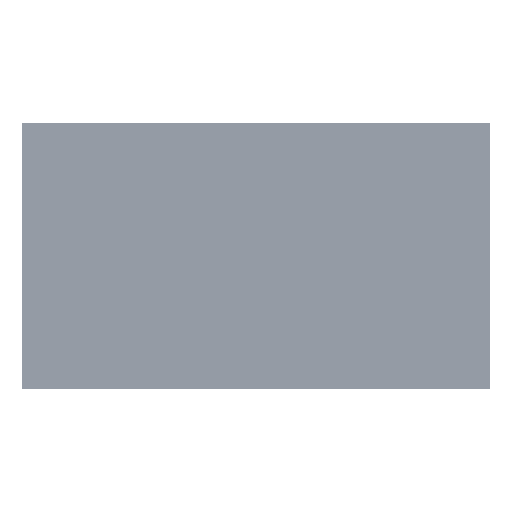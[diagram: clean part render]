
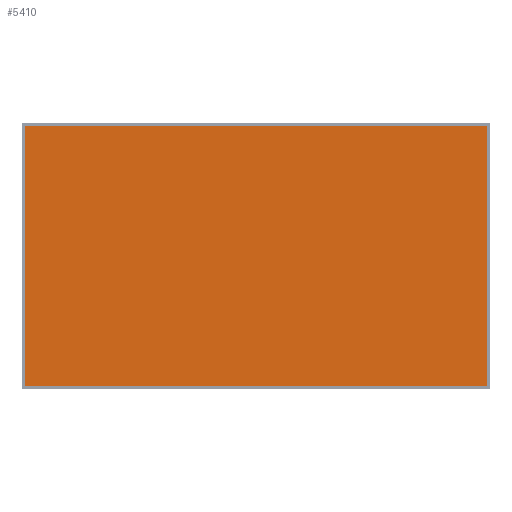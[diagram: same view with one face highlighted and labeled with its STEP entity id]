
A CAD part, top view. The second image highlights one B-rep face of the part: STEP entity #5410.
In plain terms, the highlighted planar face has unit normal (0, 0, 1).
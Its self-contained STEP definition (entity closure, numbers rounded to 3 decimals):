
#5410 = ADVANCED_FACE ( 'NONE', ( #489260 ), #36175, .T. ) ;
#8132 = VERTEX_POINT ( 'NONE', #413144 ) ;
#12064 = DIRECTION ( 'NONE',  ( 0., -1., 0. ) ) ;
#19100 = DIRECTION ( 'NONE',  ( -1., 0., 0. ) ) ;
#24427 = CARTESIAN_POINT ( 'NONE',  ( 954.12, 539.98, 1.2 ) ) ;
#26296 = CARTESIAN_POINT ( 'NONE',  ( -954.52, 539.58, 1.2 ) ) ;
#36175 = PLANE ( 'NONE',  #446875 ) ;
#36899 = ORIENTED_EDGE ( 'NONE', *, *, #68779, .T. ) ;
#53856 = VECTOR ( 'NONE', #580578, 1000. ) ;
#60615 = LINE ( 'NONE', #245986, #283199 ) ;
#60646 = VERTEX_POINT ( 'NONE', #407151 ) ;
#68779 = EDGE_CURVE ( 'NONE', #60646, #8132, #93230, .T. ) ;
#72046 = CARTESIAN_POINT ( 'NONE',  ( -954.52, 539.58, 1.2 ) ) ;
#80443 = CARTESIAN_POINT ( 'NONE',  ( -954.32, -540.78, 1.2 ) ) ;
#81932 = LINE ( 'NONE', #24427, #53856 ) ;
#83314 = CARTESIAN_POINT ( 'NONE',  ( 954.52, -540.58, 1.2 ) ) ;
#93230 = LINE ( 'NONE', #521619, #507336 ) ;
#103204 = LINE ( 'NONE', #26296, #565791 ) ;
#113217 = CARTESIAN_POINT ( 'NONE',  ( 954.12, 539.98, 1.2 ) ) ;
#121324 = DIRECTION ( 'NONE',  ( -1., 0., 0. ) ) ;
#180907 = DIRECTION ( 'NONE',  ( 0.707, 0.707, 0. ) ) ;
#186032 = CARTESIAN_POINT ( 'NONE',  ( -954.32, -540.78, 1.2 ) ) ;
#212593 = DIRECTION ( 'NONE',  ( 0., 0., 1. ) ) ;
#229518 = CARTESIAN_POINT ( 'NONE',  ( -954.52, 539.58, 1.2 ) ) ;
#237303 = EDGE_CURVE ( 'NONE', #544947, #463453, #103204, .T. ) ;
#241254 = VECTOR ( 'NONE', #180907, 1000. ) ;
#243784 = ORIENTED_EDGE ( 'NONE', *, *, #299338, .F. ) ;
#245986 = CARTESIAN_POINT ( 'NONE',  ( -954.32, -540.78, 1.2 ) ) ;
#254526 = ORIENTED_EDGE ( 'NONE', *, *, #462515, .F. ) ;
#265878 = DIRECTION ( 'NONE',  ( -0.707, 0.707, 0. ) ) ;
#268764 = DIRECTION ( 'NONE',  ( -0.707, -0.707, 0. ) ) ;
#276289 = ORIENTED_EDGE ( 'NONE', *, *, #534420, .F. ) ;
#283199 = VECTOR ( 'NONE', #428435, 1000. ) ;
#284679 = DIRECTION ( 'NONE',  ( 0., 1., 0. ) ) ;
#299338 = EDGE_CURVE ( 'NONE', #544947, #398938, #497225, .T. ) ;
#301016 = VECTOR ( 'NONE', #265878, 1000. ) ;
#308371 = LINE ( 'NONE', #83314, #374781 ) ;
#311491 = LINE ( 'NONE', #80443, #301016 ) ;
#331302 = VERTEX_POINT ( 'NONE', #510999 ) ;
#374781 = VECTOR ( 'NONE', #268764, 1000. ) ;
#384122 = EDGE_CURVE ( 'NONE', #408443, #8132, #81932, .T. ) ;
#384249 = CARTESIAN_POINT ( 'NONE',  ( -954.12, 539.98, 1.2 ) ) ;
#385145 = ORIENTED_EDGE ( 'NONE', *, *, #571163, .T. ) ;
#398938 = VERTEX_POINT ( 'NONE', #384249 ) ;
#405413 = ORIENTED_EDGE ( 'NONE', *, *, #492653, .T. ) ;
#407151 = CARTESIAN_POINT ( 'NONE',  ( 954.52, -540.58, 1.2 ) ) ;
#407252 = VERTEX_POINT ( 'NONE', #186032 ) ;
#408443 = VERTEX_POINT ( 'NONE', #506201 ) ;
#413144 = CARTESIAN_POINT ( 'NONE',  ( 954.52, 539.58, 1.2 ) ) ;
#419188 = CARTESIAN_POINT ( 'NONE',  ( -954.52, -540.58, 1.2 ) ) ;
#428435 = DIRECTION ( 'NONE',  ( 1., 0., 0. ) ) ;
#435489 = LINE ( 'NONE', #113217, #600972 ) ;
#439921 = EDGE_LOOP ( 'NONE', ( #385145, #243784, #557747, #254526, #405413, #276289, #36899, #598495 ) ) ;
#446875 = AXIS2_PLACEMENT_3D ( 'NONE', #531775, #212593, #121324 ) ;
#462515 = EDGE_CURVE ( 'NONE', #407252, #463453, #311491, .T. ) ;
#463453 = VERTEX_POINT ( 'NONE', #419188 ) ;
#489260 = FACE_OUTER_BOUND ( 'NONE', #439921, .T. ) ;
#492653 = EDGE_CURVE ( 'NONE', #407252, #331302, #60615, .T. ) ;
#497225 = LINE ( 'NONE', #229518, #241254 ) ;
#506201 = CARTESIAN_POINT ( 'NONE',  ( 954.12, 539.98, 1.2 ) ) ;
#507336 = VECTOR ( 'NONE', #284679, 1000. ) ;
#510999 = CARTESIAN_POINT ( 'NONE',  ( 954.32, -540.78, 1.2 ) ) ;
#521619 = CARTESIAN_POINT ( 'NONE',  ( 954.52, -540.58, 1.2 ) ) ;
#531775 = CARTESIAN_POINT ( 'NONE',  ( 0., 0., 1.2 ) ) ;
#534420 = EDGE_CURVE ( 'NONE', #60646, #331302, #308371, .T. ) ;
#544947 = VERTEX_POINT ( 'NONE', #72046 ) ;
#557747 = ORIENTED_EDGE ( 'NONE', *, *, #237303, .T. ) ;
#565791 = VECTOR ( 'NONE', #12064, 1000. ) ;
#571163 = EDGE_CURVE ( 'NONE', #408443, #398938, #435489, .T. ) ;
#580578 = DIRECTION ( 'NONE',  ( 0.707, -0.707, 0. ) ) ;
#598495 = ORIENTED_EDGE ( 'NONE', *, *, #384122, .F. ) ;
#600972 = VECTOR ( 'NONE', #19100, 1000. ) ;
